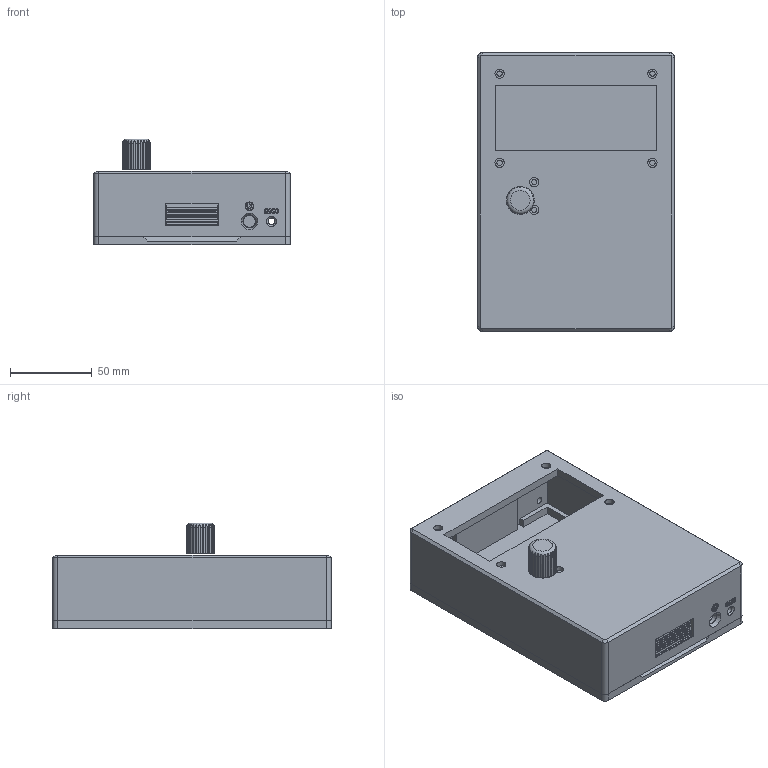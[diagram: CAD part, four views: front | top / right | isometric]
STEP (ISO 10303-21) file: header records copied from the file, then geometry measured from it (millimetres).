
FILE_DESCRIPTION(/* description */ (''),/* implementation_level */ '2;1');
FILE_NAME(/* name */ 'Fachpraktikum Gehuse.step',/* time_stamp */ '2026-01-10T16:58:32+01:00',/* author */ (''),/* organization */ (''),/* preprocessor_version */ 'ST-DEVELOPER v20.1',/* originating_system */ 'Autodesk Translation Framework v14.21.0.0',/* authorisation */ '');
FILE_SCHEMA (('AUTOMOTIVE_DESIGN { 1 0 10303 214 3 1 1 }'));
Length unit declared in the file: millimetre
Products named in the file (1): Fachpraktikum Gehäuse
Bounding box: 120 x 170 x 64.4 mm (x, y, z)
Volume: 296116.9 mm3; surface area: 138450.1 mm2
Topology: 3 solids, 3 shells, 494 faces, 1278 edges, 842 vertices
Faces by surface type: plane 272, cylinder 124, bspline 90, cone 7, torus 1
Full cylindrical faces by diameter (mm): 1.9 x4, 2.9 x2, 3.1 x2, 3.2 x4, 3.3 x1, 4.1 x2, 5 x4, 5.6 x6, 6 x1, 7 x1, 7.1 x1, 7.15 x2, 11.75 x1
Entity records: 16332 total; most frequent: CARTESIAN_POINT 4666, ORIENTED_EDGE 2556, DIRECTION 2117, EDGE_CURVE 1278, VERTEX_POINT 842, LINE 839, VECTOR 839, AXIS2_PLACEMENT_3D 639
